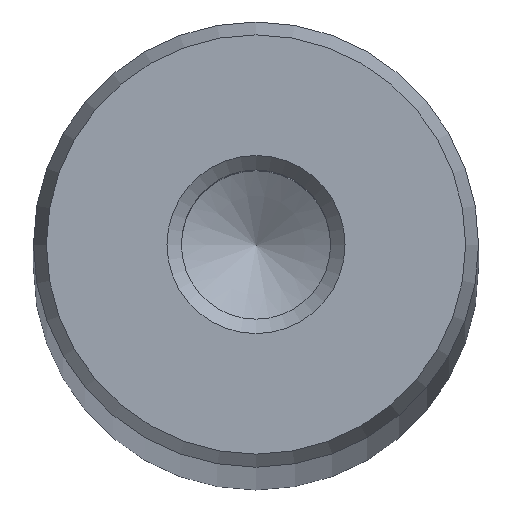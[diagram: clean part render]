
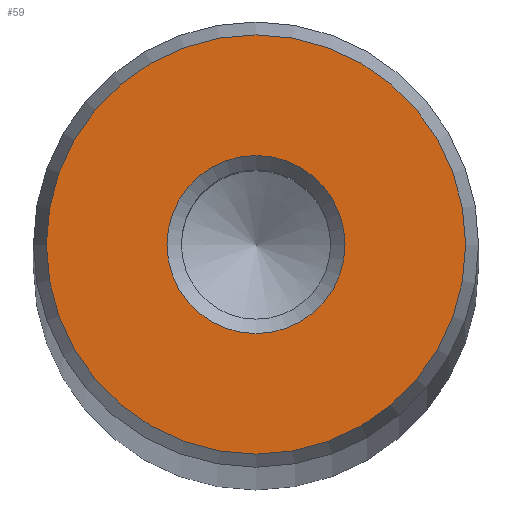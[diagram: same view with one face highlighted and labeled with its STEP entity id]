
A CAD part, top view. The second image highlights one B-rep face of the part: STEP entity #59.
In plain terms, the highlighted planar face has unit normal (0, 0, 1).
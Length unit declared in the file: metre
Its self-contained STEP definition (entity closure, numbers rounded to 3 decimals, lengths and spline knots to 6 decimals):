
#59 = ADVANCED_FACE( '', ( #124, #125 ), #126, .T. );
#124 = FACE_OUTER_BOUND( '', #183, .T. );
#125 = FACE_BOUND( '', #184, .T. );
#126 = PLANE( '', #185 );
#183 = EDGE_LOOP( '', ( #258 ) );
#184 = EDGE_LOOP( '', ( #259 ) );
#185 = AXIS2_PLACEMENT_3D( '', #260, #261, #262 );
#258 = ORIENTED_EDGE( '', *, *, #292, .T. );
#259 = ORIENTED_EDGE( '', *, *, #290, .T. );
#260 = CARTESIAN_POINT( '', ( 0., 0., 0.736 ) );
#261 = DIRECTION( '', ( 0., 0., 1. ) );
#262 = DIRECTION( '', ( 1., 0., 0. ) );
#290 = EDGE_CURVE( '', #326, #326, #327, .T. );
#292 = EDGE_CURVE( '', #329, #329, #330, .T. );
#326 = VERTEX_POINT( '', #363 );
#327 = CIRCLE( '', #364, 0.005 );
#329 = VERTEX_POINT( '', #366 );
#330 = CIRCLE( '', #367, 0.011772 );
#363 = CARTESIAN_POINT( '', ( 0.005, 0., 0.736 ) );
#364 = AXIS2_PLACEMENT_3D( '', #400, #401, #402 );
#366 = CARTESIAN_POINT( '', ( 0.011772, 0., 0.736 ) );
#367 = AXIS2_PLACEMENT_3D( '', #403, #404, #405 );
#400 = CARTESIAN_POINT( '', ( 0., 0., 0.736 ) );
#401 = DIRECTION( '', ( 0., 0., -1. ) );
#402 = DIRECTION( '', ( 1., 0., 0. ) );
#403 = CARTESIAN_POINT( '', ( 0., 0., 0.736 ) );
#404 = DIRECTION( '', ( 0., 0., 1. ) );
#405 = DIRECTION( '', ( 1., 0., 0. ) );
